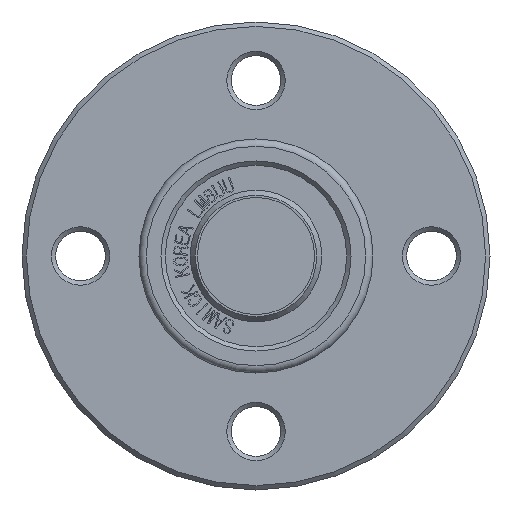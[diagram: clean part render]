
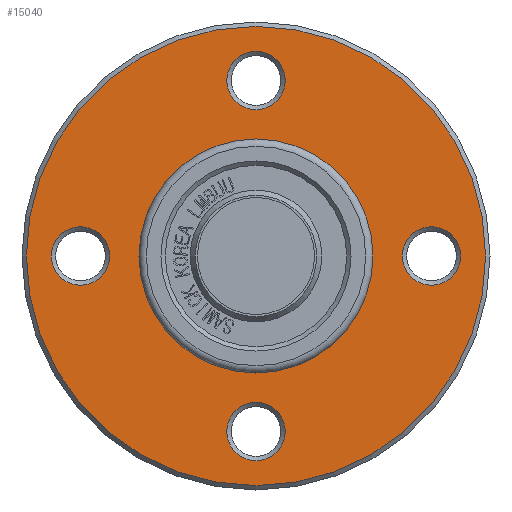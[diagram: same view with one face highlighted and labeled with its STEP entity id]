
A CAD part, front view. The second image highlights one B-rep face of the part: STEP entity #15040.
In plain terms, the highlighted planar face has unit normal (0, -1, 0).
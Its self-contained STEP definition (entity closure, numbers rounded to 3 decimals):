
#2164=FACE_BOUND('',#3290,.T.);
#2165=FACE_BOUND('',#3291,.T.);
#2166=FACE_BOUND('',#3292,.T.);
#2167=FACE_BOUND('',#3293,.T.);
#2168=FACE_BOUND('',#3294,.T.);
#2224=PLANE('',#15917);
#2453=FACE_OUTER_BOUND('',#3289,.T.);
#3289=EDGE_LOOP('',(#10398,#10399));
#3290=EDGE_LOOP('',(#10400));
#3291=EDGE_LOOP('',(#10401));
#3292=EDGE_LOOP('',(#10402,#10403));
#3293=EDGE_LOOP('',(#10404));
#3294=EDGE_LOOP('',(#10405));
#6383=CIRCLE('',#15915,2.);
#6385=CIRCLE('',#15918,15.7);
#6386=CIRCLE('',#15919,15.7);
#6387=CIRCLE('',#15920,2.);
#6388=CIRCLE('',#15921,2.);
#6389=CIRCLE('',#15922,8.);
#6390=CIRCLE('',#15923,8.);
#6391=CIRCLE('',#15924,2.);
#6465=VERTEX_POINT('',#18044);
#6467=VERTEX_POINT('',#18050);
#6468=VERTEX_POINT('',#18051);
#6469=VERTEX_POINT('',#18054);
#6470=VERTEX_POINT('',#18056);
#6471=VERTEX_POINT('',#18058);
#6472=VERTEX_POINT('',#18059);
#6473=VERTEX_POINT('',#18062);
#8037=EDGE_CURVE('',#6465,#6465,#6383,.T.);
#8040=EDGE_CURVE('',#6467,#6468,#6385,.T.);
#8041=EDGE_CURVE('',#6468,#6467,#6386,.T.);
#8042=EDGE_CURVE('',#6469,#6469,#6387,.T.);
#8043=EDGE_CURVE('',#6470,#6470,#6388,.T.);
#8044=EDGE_CURVE('',#6471,#6472,#6389,.T.);
#8045=EDGE_CURVE('',#6472,#6471,#6390,.T.);
#8046=EDGE_CURVE('',#6473,#6473,#6391,.T.);
#10398=ORIENTED_EDGE('',*,*,#8040,.T.);
#10399=ORIENTED_EDGE('',*,*,#8041,.T.);
#10400=ORIENTED_EDGE('',*,*,#8042,.F.);
#10401=ORIENTED_EDGE('',*,*,#8043,.F.);
#10402=ORIENTED_EDGE('',*,*,#8044,.F.);
#10403=ORIENTED_EDGE('',*,*,#8045,.F.);
#10404=ORIENTED_EDGE('',*,*,#8046,.F.);
#10405=ORIENTED_EDGE('',*,*,#8037,.F.);
#15040=ADVANCED_FACE('',(#2453,#2164,#2165,#2166,#2167,#2168),#2224,.T.);
#15915=AXIS2_PLACEMENT_3D('',#18045,#16292,#16293);
#15917=AXIS2_PLACEMENT_3D('',#18049,#16297,#16298);
#15918=AXIS2_PLACEMENT_3D('',#18052,#16299,#16300);
#15919=AXIS2_PLACEMENT_3D('',#18053,#16301,#16302);
#15920=AXIS2_PLACEMENT_3D('',#18055,#16303,#16304);
#15921=AXIS2_PLACEMENT_3D('',#18057,#16305,#16306);
#15922=AXIS2_PLACEMENT_3D('',#18060,#16307,#16308);
#15923=AXIS2_PLACEMENT_3D('',#18061,#16309,#16310);
#15924=AXIS2_PLACEMENT_3D('',#18063,#16311,#16312);
#16292=DIRECTION('center_axis',(0.,-1.,0.));
#16293=DIRECTION('ref_axis',(0.,0.,-1.));
#16297=DIRECTION('center_axis',(0.,-1.,0.));
#16298=DIRECTION('ref_axis',(0.,0.,-1.));
#16299=DIRECTION('center_axis',(0.,-1.,0.));
#16300=DIRECTION('ref_axis',(1.,0.,0.));
#16301=DIRECTION('center_axis',(0.,-1.,0.));
#16302=DIRECTION('ref_axis',(1.,0.,0.));
#16303=DIRECTION('center_axis',(0.,-1.,0.));
#16304=DIRECTION('ref_axis',(1.,0.,0.));
#16305=DIRECTION('center_axis',(0.,-1.,0.));
#16306=DIRECTION('ref_axis',(0.,0.,
1.));
#16307=DIRECTION('center_axis',(0.,-1.,0.));
#16308=DIRECTION('ref_axis',(1.,0.,0.));
#16309=DIRECTION('center_axis',(0.,-1.,0.));
#16310=DIRECTION('ref_axis',(1.,0.,0.));
#16311=DIRECTION('center_axis',(0.,-1.,0.));
#16312=DIRECTION('ref_axis',(-1.,0.,0.));
#18044=CARTESIAN_POINT('',(0.,12.5,-10.));
#18045=CARTESIAN_POINT('Origin',(0.,12.5,-12.));
#18049=CARTESIAN_POINT('Origin',(8.,12.5,0.));
#18050=CARTESIAN_POINT('',(15.7,12.5,0.));
#18051=CARTESIAN_POINT('',(-15.7,12.5,0.));
#18052=CARTESIAN_POINT('Origin',(0.,12.5,0.));
#18053=CARTESIAN_POINT('Origin',(0.,12.5,0.));
#18054=CARTESIAN_POINT('',(10.,12.5,0.));
#18055=CARTESIAN_POINT('Origin',(12.,12.5,0.));
#18056=CARTESIAN_POINT('',(0.,12.5,10.));
#18057=CARTESIAN_POINT('Origin',(0.,12.5,12.));
#18058=CARTESIAN_POINT('',(8.,12.5,0.));
#18059=CARTESIAN_POINT('',(-8.,12.5,0.));
#18060=CARTESIAN_POINT('Origin',(0.,12.5,0.));
#18061=CARTESIAN_POINT('Origin',(0.,12.5,0.));
#18062=CARTESIAN_POINT('',(-10.,12.5,0.));
#18063=CARTESIAN_POINT('Origin',(-12.,12.5,0.));
